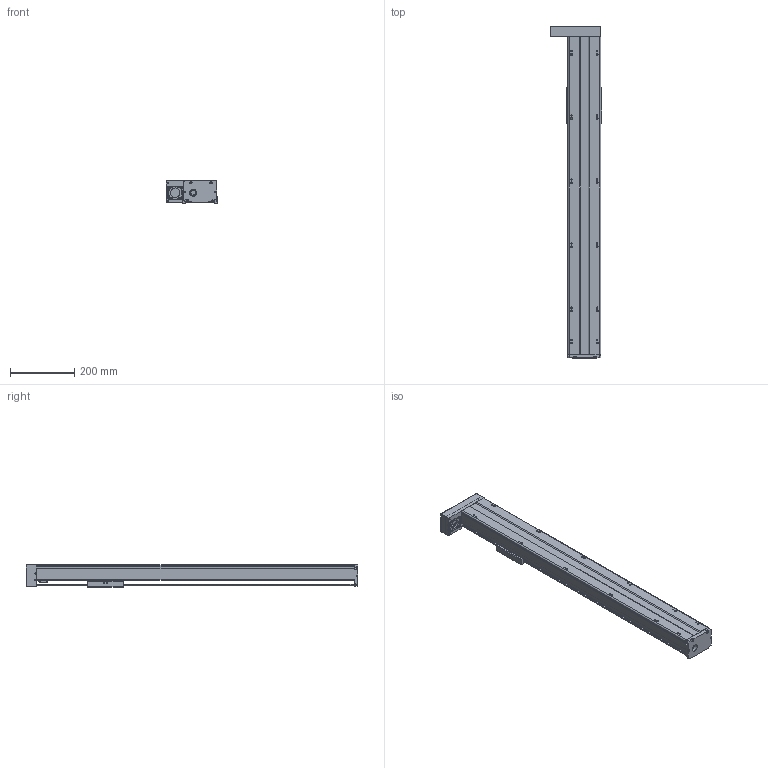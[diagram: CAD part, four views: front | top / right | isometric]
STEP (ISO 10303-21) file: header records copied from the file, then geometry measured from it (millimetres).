
FILE_DESCRIPTION(/* description */ (''),/* implementation_level */ '2;1');
FILE_NAME(/* name */ 'TKA100-FL-800_asm1.stp',/* time_stamp */ '2016-05-17T14:56:05+08:00',/* author */ (''),/* organization */ (''),/* preprocessor_version */ 'ST-DEVELOPER v15',/* originating_system */ 'SIEMENS PLM Software NX 8.5',/* authorisation */ '');
FILE_SCHEMA (('AUTOMOTIVE_DESIGN { 1 0 10303 214 3 1 1 1 }'));
Length unit declared in the file: millimetre
Products named in the file (3): 200-2; 200-1; TKA100-FL-800_asm1
Assembly tree (2 placements, depth 2):
  TKA100-FL-800_asm1
    200-1
    200-2
Bounding box: 162 x 1036 x 71 mm (x, y, z)
Volume: 2186027.1 mm3; surface area: 744476.3 mm2
Topology: 2 solids, 16 shells, 800 faces, 2088 edges, 1357 vertices
Faces by surface type: plane 318, cylinder 305, cone 123, torus 28, bspline 26
Full cylindrical faces by diameter (mm): 2.5 x6, 2.6 x8, 3.3 x11, 3.4 x4, 3.8 x8, 4.2 x21, 4.3 x4, 4.5 x10, 5 x2, 5.5 x20, 6.6 x4, 8 x4, 9 x6, 10 x7, 11 x4, 12 x6, 15.3 x1, 16 x1, 22 x1, 24 x1, 28 x2, 30 x1, 33 x1
Entity records: 29441 total; most frequent: CARTESIAN_POINT 10807, DIRECTION 3815, ORIENTED_EDGE 3620, EDGE_CURVE 1810, AXIS2_PLACEMENT_3D 1505, VERTEX_POINT 1286, EDGE_LOOP 1111, LINE 805
